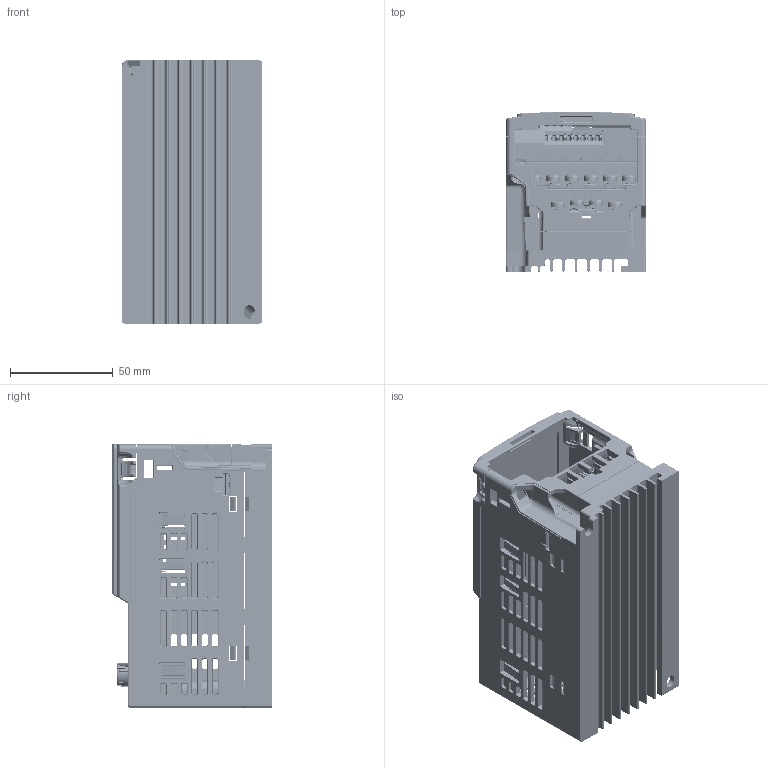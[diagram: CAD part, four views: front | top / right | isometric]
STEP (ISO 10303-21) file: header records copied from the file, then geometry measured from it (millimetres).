
FILE_DESCRIPTION((''),'2;1');
FILE_NAME('DELTA_IA_MDS_VFD-ME300-A1_D-3D_ASM','2023-12-28T19:02:31',('EDWARD.LIAO'),(''),'CREO PARAMETRIC BY PTC INC, 2022162','CREO PARAMETRIC BY PTC INC, 2022162','');
FILE_SCHEMA(('AUTOMOTIVE_DESIGN { 1 0 10303 214 1 1 1 1 }'));
Products named in the file (91): DELTA_IA_MDS_VFD-ME300-A1_D-3_1; DELTA_IA_MDS_VFD-ME300-A1_D-3_5; DELTA_IA_MDS_VFD-ME300-A1_D-3_8; DELTA_IA_MDS_VFD-ME300-A1_D-3_9; DELTA_IA_MDS_VFD-ME300-A1_D-_10; DELTA_IA_MDS_VFD-ME300-A1_D-_12; DELTA_IA_MDS_VFD-ME300-A1_D-_13; DELTA_IA_MDS_VFD-ME300-A1_D-_15; DELTA_IA_MDS_VFD-ME300-A1_D-_16; DELTA_IA_MDS_VFD-ME300-A1_D-_18; DELTA_IA_MDS_VFD-ME300-A1_D-_19; DELTA_IA_MDS_VFD-ME300-A1_D-_21; DELTA_IA_MDS_VFD-ME300-A1_D-_22; DELTA_IA_MDS_VFD-ME300-A1_D-_24; DELTA_IA_MDS_VFD-ME300-A1_D-_25; DELTA_IA_MDS_VFD-ME300-A1_D-_27; DELTA_IA_MDS_VFD-ME300-A1_D-_28; DELTA_IA_MDS_VFD-ME300-A1_D-_30; DELTA_IA_MDS_VFD-ME300-A1_D-_31; DELTA_IA_MDS_VFD-ME300-A1_D-_33; DELTA_IA_MDS_VFD-ME300-A1_D-_34; DELTA_IA_MDS_VFD-ME300-A1_D-_36; DELTA_IA_MDS_VFD-ME300-A1_D-_37; DELTA_IA_MDS_VFD-ME300-A1_D-_39; DELTA_IA_MDS_VFD-ME300-A1_D-_40; DELTA_IA_MDS_VFD-ME300-A1_D-_41; DELTA_IA_MDS_VFD-ME300-A1_D-_43; DELTA_IA_MDS_VFD-ME300-A1_D-_44; DELTA_IA_MDS_VFD-ME300-A1_D-_46; DELTA_IA_MDS_VFD-ME300-A1_D-_47; DELTA_IA_MDS_VFD-ME300-A1_D-_49; DELTA_IA_MDS_VFD-ME300-A1_D-_50; DELTA_IA_MDS_VFD-ME300-A1_D-_52; DELTA_IA_MDS_VFD-ME300-A1_D-_53; DELTA_IA_MDS_VFD-ME300-A1_D-_55; DELTA_IA_MDS_VFD-ME300-A1_D-_56; DELTA_IA_MDS_VFD-ME300-A1_D-_58; DELTA_IA_MDS_VFD-ME300-A1_D-_59; DELTA_IA_MDS_VFD-ME300-A1_D-_61; DELTA_IA_MDS_VFD-ME300-A1_D-_62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
Assembly tree (90 placements, depth 6):
  DELTA_IA_MDS_VFD-ME300-A1_D-3D_ASM
    ASM0004_ASM_1_ASM_1_ASM
      DELTA_IA_MDS_VFD-ME300-A1_D-3_1
      DELTA_IA_MDS_VFD-ME300-A1_D-3_5
      DELTA_IA_MDS_VFD-ME300-A1_D-3_8
      DELTA_IA_MDS_VFD-ME300-A1_D-3_9
      DELTA_IA_MDS_VFD-ME300-A1_D-_10
      DELTA_IA_MDS_VFD-ME300-A1_D-_12
      DELTA_IA_MDS_VFD-ME300-A1_D-_13
      DELTA_IA_MDS_VFD-ME300-A1_D-_15
      DELTA_IA_MDS_VFD-ME300-A1_D-_16
      DELTA_IA_MDS_VFD-ME300-A1_D-_18
      DELTA_IA_MDS_VFD-ME300-A1_D-_19
      DELTA_IA_MDS_VFD-ME300-A1_D-_21
      DELTA_IA_MDS_VFD-ME300-A1_D-_22
      DELTA_IA_MDS_VFD-ME300-A1_D-_24
      DELTA_IA_MDS_VFD-ME300-A1_D-_25
      DELTA_IA_MDS_VFD-ME300-A1_D-_27
      DELTA_IA_MDS_VFD-ME300-A1_D-_28
      DELTA_IA_MDS_VFD-ME300-A1_D-_30
      DELTA_IA_MDS_VFD-ME300-A1_D-_31
      DELTA_IA_MDS_VFD-ME300-A1_D-_33
      DELTA_IA_MDS_VFD-ME300-A1_D-_34
      DELTA_IA_MDS_VFD-ME300-A1_D-_36
      DELTA_IA_MDS_VFD-ME300-A1_D-_37
      DELTA_IA_MDS_VFD-ME300-A1_D-_39
      DELTA_IA_MDS_VFD-ME300-A1_D-_40
      DELTA_IA_MDS_VFD-ME300-A1_D-_41
      DELTA_IA_MDS_VFD-ME300-A1_D-_43
      DELTA_IA_MDS_VFD-ME300-A1_D-_44
      DELTA_IA_MDS_VFD-ME300-A1_D-_46
      DELTA_IA_MDS_VFD-ME300-A1_D-_47
      DELTA_IA_MDS_VFD-ME300-A1_D-_49
      DELTA_IA_MDS_VFD-ME300-A1_D-_50
      DELTA_IA_MDS_VFD-ME300-A1_D-_52
      DELTA_IA_MDS_VFD-ME300-A1_D-_53
      DELTA_IA_MDS_VFD-ME300-A1_D-_55
      DELTA_IA_MDS_VFD-ME300-A1_D-_56
      DELTA_IA_MDS_VFD-ME300-A1_D-_58
      DELTA_IA_MDS_VFD-ME300-A1_D-_59
      DELTA_IA_MDS_VFD-ME300-A1_D-_61
      DELTA_IA_MDS_VFD-ME300-A1_D-_62
      DELTA_IA_MDS_VFD-ME300-A1_D-_63
      DELTA_IA_MDS_VFD-ME300-A1_D-_64
      DELTA_IA_MDS_VFD-ME300-A1_D-_65
      DELTA_IA_MDS_VFD-ME300-A1_D-_66
      DELTA_IA_MDS_VFD-ME300-A1_D-_67
      DELTA_IA_MDS_VFD-ME300-A1_D-_72
      DELTA_IA_MDS_VFD-ME300-A1_D-_75
      DELTA_IA_MDS_VFD-ME300-A1_D-_76
      DELTA_IA_MDS_VFD-ME300-A1_D-_77
      DELTA_IA_MDS_VFD-ME300-A1_D-_78
      DELTA_IA_MDS_VFD-ME300-A1_D-_79
      DELTA_IA_MDS_VFD-ME300-A1_D-_80
      ASM0001_ASM_1_ASM
        ASM0001_ASM_1_1_ASM_1_ASM
          ME-CTR_22_1_1_1
          ME-CTR_23_1_1_1
          ME-CTR_24_1_1_1
          ME-CTR_25_1_1_1
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Bounding box: 68 x 77.99 x 128 mm (x, y, z)
Volume: 148177 mm3; surface area: 156174.7 mm2
Topology: 86 solids, 160 shells, 10033 faces, 27044 edges, 17360 vertices
Faces by surface type: plane 6115, cylinder 2226, cone 753, torus 336, extrusion 330, bspline 183, revolution 48, sphere 42
Entity records: 415122 total; most frequent: CARTESIAN_POINT 87033, ORIENTED_EDGE 53932, DIRECTION 50701, EDGE_CURVE 26966, VECTOR 18874, LINE 18544, VERTEX_POINT 17336, AXIS2_PLACEMENT_3D 15755
